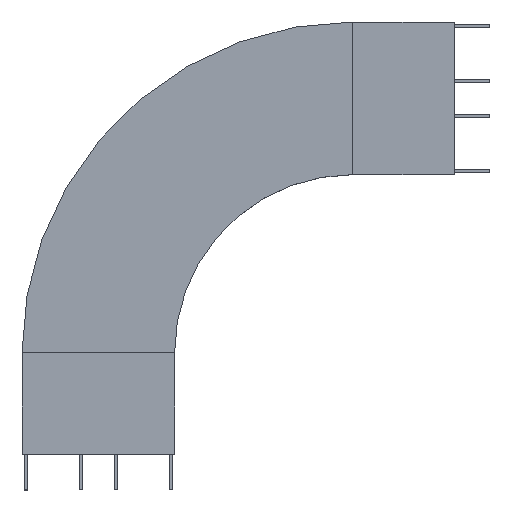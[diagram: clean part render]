
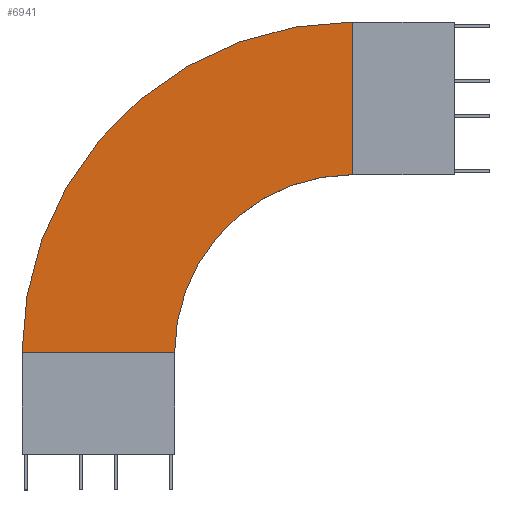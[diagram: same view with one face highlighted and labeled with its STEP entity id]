
A CAD part, top view. The second image highlights one B-rep face of the part: STEP entity #6941.
In plain terms, the highlighted planar face has unit normal (0, 0, 1).
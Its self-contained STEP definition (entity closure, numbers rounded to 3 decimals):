
#268 = EDGE_CURVE ( 'NONE', #1292, #1785, #3993, .T. ) ;
#602 = ORIENTED_EDGE ( 'NONE', *, *, #4276, .T. ) ;
#772 = DIRECTION ( 'NONE',  ( 0., 0., 1. ) ) ;
#878 = DIRECTION ( 'NONE',  ( 0., 1., 0. ) ) ;
#1239 = CARTESIAN_POINT ( 'NONE',  ( -650., 0., 46.5 ) ) ;
#1292 = VERTEX_POINT ( 'NONE', #6798 ) ;
#1785 = VERTEX_POINT ( 'NONE', #1239 ) ;
#2115 = ORIENTED_EDGE ( 'NONE', *, *, #268, .T. ) ;
#2270 = AXIS2_PLACEMENT_3D ( 'NONE', #6170, #7533, #6847 ) ;
#2422 = CARTESIAN_POINT ( 'NONE',  ( 0., 650., 46.5 ) ) ;
#3035 = FACE_OUTER_BOUND ( 'NONE', #3741, .T. ) ;
#3360 = ORIENTED_EDGE ( 'NONE', *, *, #5432, .F. ) ;
#3714 = LINE ( 'NONE', #5203, #9824 ) ;
#3741 = EDGE_LOOP ( 'NONE', ( #3360, #4137, #602, #2115 ) ) ;
#3761 = DIRECTION ( 'NONE',  ( 0., 0., 1. ) ) ;
#3957 = LINE ( 'NONE', #2422, #9664 ) ;
#3993 = CIRCLE ( 'NONE', #4471, 650. ) ;
#4137 = ORIENTED_EDGE ( 'NONE', *, *, #10168, .F. ) ;
#4276 = EDGE_CURVE ( 'NONE', #8518, #1292, #3957, .T. ) ;
#4471 = AXIS2_PLACEMENT_3D ( 'NONE', #8606, #772, #7047 ) ;
#5203 = CARTESIAN_POINT ( 'NONE',  ( -650., 0., 46.5 ) ) ;
#5304 = DIRECTION ( 'NONE',  ( 0., 1., 0. ) ) ;
#5305 = DIRECTION ( 'NONE',  ( -1., 0., 0. ) ) ;
#5432 = EDGE_CURVE ( 'NONE', #7951, #1785, #3714, .T. ) ;
#6170 = CARTESIAN_POINT ( 'NONE',  ( 0., 650., 46.5 ) ) ;
#6429 = CARTESIAN_POINT ( 'NONE',  ( -350., 0., 46.5 ) ) ;
#6798 = CARTESIAN_POINT ( 'NONE',  ( 0., 650., 46.5 ) ) ;
#6847 = DIRECTION ( 'NONE',  ( 1., 0., 0. ) ) ;
#6941 = ADVANCED_FACE ( 'NONE', ( #3035 ), #8450, .T. ) ;
#7047 = DIRECTION ( 'NONE',  ( 0., 1., 0. ) ) ;
#7489 = AXIS2_PLACEMENT_3D ( 'NONE', #8411, #3761, #5304 ) ;
#7533 = DIRECTION ( 'NONE',  ( 0., 0., 1. ) ) ;
#7951 = VERTEX_POINT ( 'NONE', #6429 ) ;
#8411 = CARTESIAN_POINT ( 'NONE',  ( 0., 0., 46.5 ) ) ;
#8450 = PLANE ( 'NONE',  #2270 ) ;
#8518 = VERTEX_POINT ( 'NONE', #9731 ) ;
#8606 = CARTESIAN_POINT ( 'NONE',  ( 0., 0., 46.5 ) ) ;
#9664 = VECTOR ( 'NONE', #878, 1000. ) ;
#9731 = CARTESIAN_POINT ( 'NONE',  ( 0., 350., 46.5 ) ) ;
#9810 = CIRCLE ( 'NONE', #7489, 350. ) ;
#9824 = VECTOR ( 'NONE', #5305, 1000. ) ;
#10168 = EDGE_CURVE ( 'NONE', #8518, #7951, #9810, .T. ) ;
